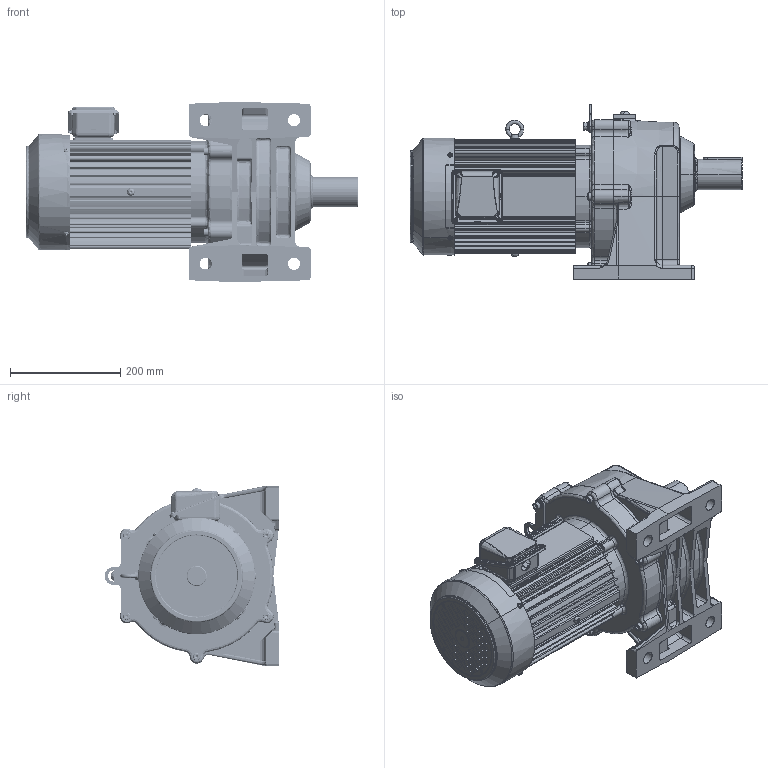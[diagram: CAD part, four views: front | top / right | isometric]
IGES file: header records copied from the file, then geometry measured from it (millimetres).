
Start section: SolidWorks IGES file using analytic representation for surfaces
Global section: file name: \\100.100.100.8\1_共有作業フォルダ\1-5_３Ｄデータ\solidworks\personal-folder\H.Nagayama\SGP1外形_075~370\P1(3D)_075~370\igs\TML2-37-(10~50).IGS; native system: SolidWorks 2018; preprocessor: SolidWorks 2018; author: user; date: 210309.151317; units: millimetre
Bounding box: 602 x 316.87 x 327 mm (x, y, z)
Surface area: 1168450.4 mm2 (no closed solid volume)
Topology: 0 solids, 0 shells, 2771 faces, 32177 edges, 32094 vertices
Faces by surface type: bspline 1407, revolution 1364
